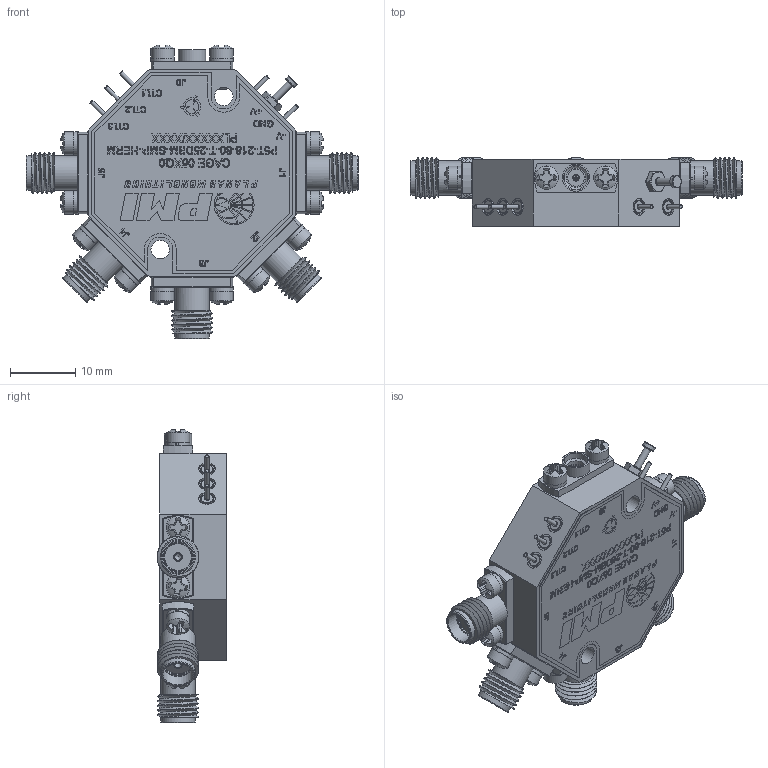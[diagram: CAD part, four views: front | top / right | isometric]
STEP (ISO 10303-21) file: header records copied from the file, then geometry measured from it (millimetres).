
FILE_DESCRIPTION (( 'STEP AP214' ), '1' );
FILE_NAME ('P5T-218-80-T-25DBM-SMP-HERM.STEP', '2026-07-27T18:44:51', ( '' ), ( '' ), 'SwSTEP 2.0', 'SolidWorks 2025', '' );
FILE_SCHEMA (( 'AUTOMOTIVE_DESIGN' ));
Length unit declared in the file: inch
Products named in the file (1): P5T-218-80-T-25DBM-SMP-HERM
Bounding box: 50.8 x 10.63 x 44.98 mm (x, y, z)
Volume: 6633 mm3; surface area: 11713.7 mm2
Topology: 51 solids, 85 shells, 1726 faces, 4761 edges, 3469 vertices
Faces by surface type: plane 838, cylinder 540, torus 155, cone 135, sphere 36, bspline 22
Full cylindrical faces by diameter (mm): 0.381 x5, 0.635 x10, 0.889 x6, 1.016 x11, 1.067 x1, 1.191 x40, 1.27 x10, 1.321 x15, 1.524 x40, 1.702 x6, 1.778 x13, 1.93 x6, 2.057 x21, 2.184 x26, 2.565 x19, 2.591 x10, 2.616 x2, 2.845 x2, 2.946 x1, 3.175 x1, 3.302 x5, 3.556 x12, 3.607 x1, 3.937 x1, 4.166 x1, 4.191 x10, 4.597 x5, 5.283 x10
Entity records: 83074 total; most frequent: CARTESIAN_POINT 19386, DIRECTION 8629, ORIENTED_EDGE 8280, EDGE_CURVE 4140, AXIS2_PLACEMENT_3D 3381, VERTEX_POINT 3357, EDGE_LOOP 2573, FACE_OUTER_BOUND 2155
